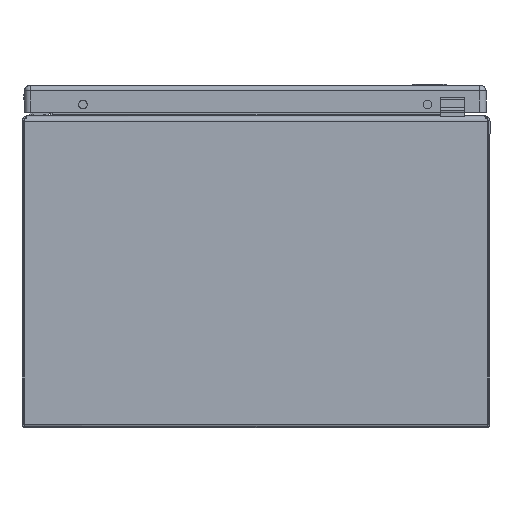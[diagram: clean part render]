
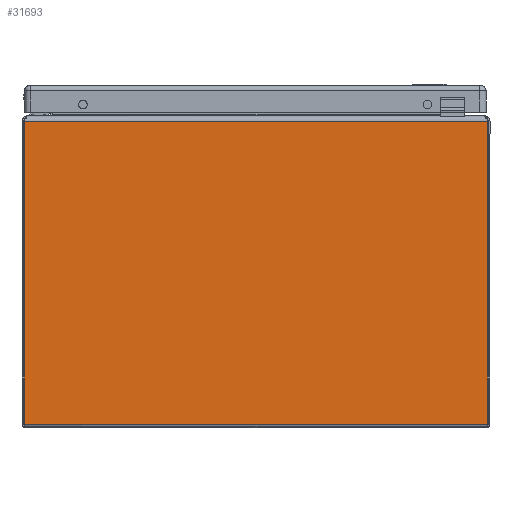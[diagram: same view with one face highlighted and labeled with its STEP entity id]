
A CAD part, front view. The second image highlights one B-rep face of the part: STEP entity #31693.
In plain terms, the highlighted planar face has unit normal (0, -1, 0).
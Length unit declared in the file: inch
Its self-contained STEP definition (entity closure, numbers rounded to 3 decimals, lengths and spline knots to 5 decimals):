
#1324 = CARTESIAN_POINT ( 'NONE',  ( 5.94693, -10., 7.859 ) ) ;
#1499 = CARTESIAN_POINT ( 'NONE',  ( 5.94693, -10., 0.097 ) ) ;
#1879 = CARTESIAN_POINT ( 'NONE',  ( -5.94693, -10., 7.859 ) ) ;
#2008 = CARTESIAN_POINT ( 'NONE',  ( -5.94693, -10., 0.097 ) ) ;
#2862 = FACE_OUTER_BOUND ( 'NONE', #17081, .T. ) ;
#3702 = AXIS2_PLACEMENT_3D ( 'NONE', #5808, #5820, #5821 ) ;
#5808 = CARTESIAN_POINT ( 'NONE',  ( -106., -10., 7.859 ) ) ;
#5815 = PLANE ( 'NONE',  #3702 ) ;
#5820 = DIRECTION ( 'NONE',  ( 0., -1., 0. ) ) ;
#5821 = DIRECTION ( 'NONE',  ( 0., 0., -1. ) ) ;
#6671 = EDGE_CURVE ( 'NONE', #27438, #27567, #23512, .T. ) ;
#6714 = EDGE_CURVE ( 'NONE', #27199, #27097, #23567, .T. ) ;
#6724 = EDGE_CURVE ( 'NONE', #27438, #27097, #23595, .T. ) ;
#6728 = EDGE_CURVE ( 'NONE', #27567, #27199, #23602, .T. ) ;
#8294 = ORIENTED_EDGE ( 'NONE', *, *, #6714, .T. ) ;
#8295 = ORIENTED_EDGE ( 'NONE', *, *, #6724, .F. ) ;
#8296 = ORIENTED_EDGE ( 'NONE', *, *, #6671, .T. ) ;
#8297 = ORIENTED_EDGE ( 'NONE', *, *, #6728, .T. ) ;
#9048 = DIRECTION ( 'NONE',  ( 0., 0., -1. ) ) ;
#9052 = CARTESIAN_POINT ( 'NONE',  ( -5.94693, -10., 7.859 ) ) ;
#12683 = DIRECTION ( 'NONE',  ( 1., 0., 0. ) ) ;
#12689 = CARTESIAN_POINT ( 'NONE',  ( -106., -10., 0.097 ) ) ;
#12735 = DIRECTION ( 'NONE',  ( 1., 0., 0. ) ) ;
#12740 = CARTESIAN_POINT ( 'NONE',  ( -106., -10., 7.859 ) ) ;
#12852 = DIRECTION ( 'NONE',  ( 0., 0., 1. ) ) ;
#12857 = CARTESIAN_POINT ( 'NONE',  ( 5.94693, -10., 7.859 ) ) ;
#17081 = EDGE_LOOP ( 'NONE', ( #8294, #8295, #8296, #8297 ) ) ;
#23504 = VECTOR ( 'NONE', #9048, 39.37008 ) ;
#23512 = LINE ( 'NONE', #9052, #23504 ) ;
#23567 = LINE ( 'NONE', #12857, #23577 ) ;
#23577 = VECTOR ( 'NONE', #12852, 39.37008 ) ;
#23595 = LINE ( 'NONE', #12740, #23596 ) ;
#23596 = VECTOR ( 'NONE', #12735, 39.37008 ) ;
#23602 = LINE ( 'NONE', #12689, #23603 ) ;
#23603 = VECTOR ( 'NONE', #12683, 39.37008 ) ;
#27097 = VERTEX_POINT ( 'NONE', #1324 ) ;
#27199 = VERTEX_POINT ( 'NONE', #1499 ) ;
#27438 = VERTEX_POINT ( 'NONE', #1879 ) ;
#27567 = VERTEX_POINT ( 'NONE', #2008 ) ;
#31693 = ADVANCED_FACE ( 'NONE', ( #2862 ), #5815, .T. ) ;
